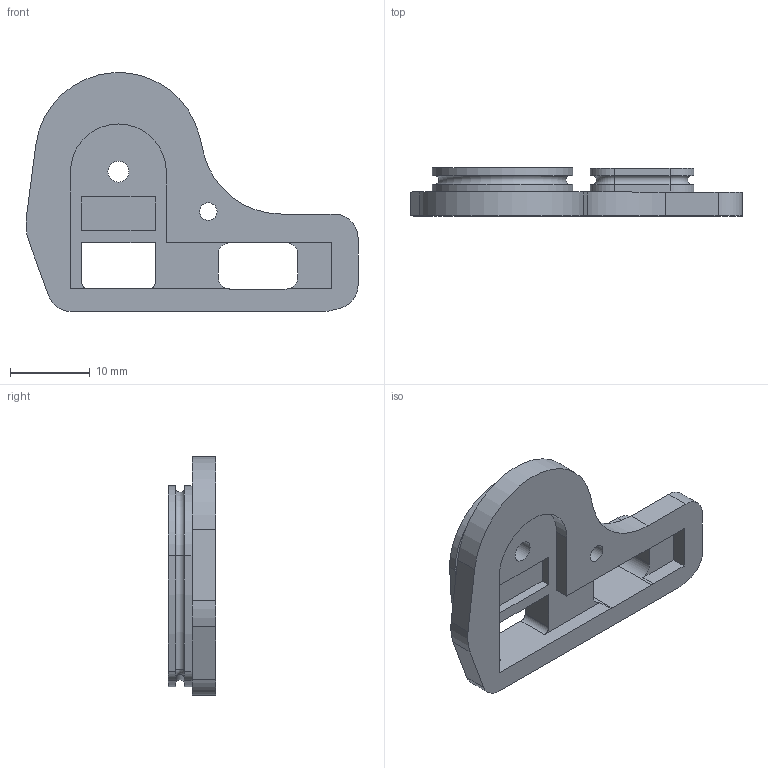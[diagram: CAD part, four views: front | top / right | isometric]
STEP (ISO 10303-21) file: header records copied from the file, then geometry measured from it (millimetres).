
FILE_DESCRIPTION(/* description */ (''),/* implementation_level */ '2;1');
FILE_NAME(/* name */ 'Battery Cover.step',/* time_stamp */ '2024-08-02T08:16:18-07:00',/* author */ (''),/* organization */ (''),/* preprocessor_version */ 'ST-DEVELOPER v20',/* originating_system */ 'Autodesk Translation Framework v13.14.0.145',/* authorisation */ '');
FILE_SCHEMA (('AUTOMOTIVE_DESIGN { 1 0 10303 214 3 1 1 }'));
Length unit declared in the file: millimetre
Products named in the file (1): Battery Cover
Bounding box: 41.6 x 6 x 29.92 mm (x, y, z)
Volume: 2465.4 mm3; surface area: 2795.4 mm2
Topology: 1 solids, 1 shells, 94 faces, 238 edges, 149 vertices
Faces by surface type: cylinder 42, plane 40, torus 10, cone 2
Full cylindrical faces by diameter (mm): 2.2 x1, 2.63 x1, 8 x1
Entity records: 2871 total; most frequent: DIRECTION 520, CARTESIAN_POINT 486, ORIENTED_EDGE 476, EDGE_CURVE 238, AXIS2_PLACEMENT_3D 189, VERTEX_POINT 149, LINE 142, VECTOR 142
